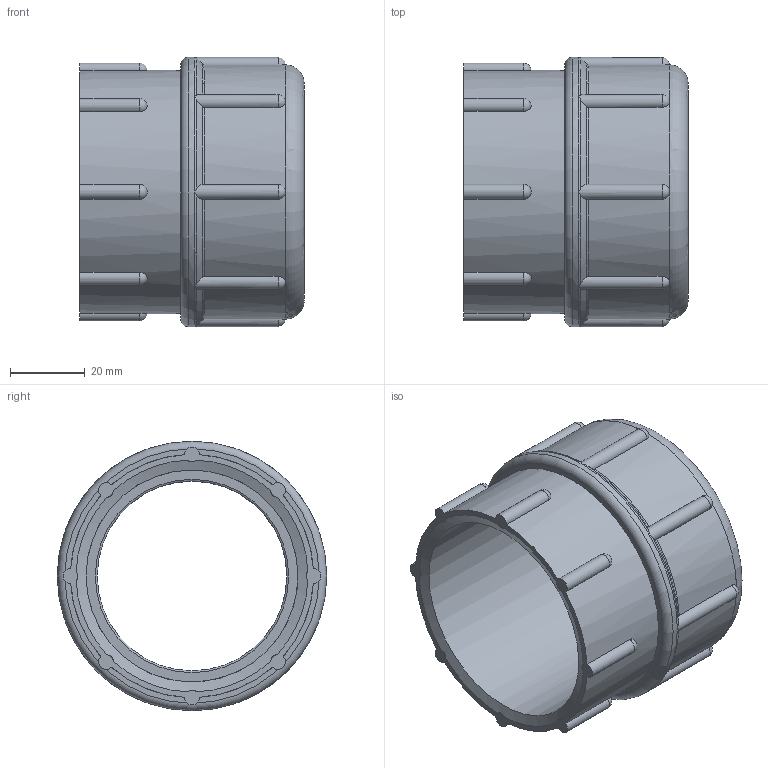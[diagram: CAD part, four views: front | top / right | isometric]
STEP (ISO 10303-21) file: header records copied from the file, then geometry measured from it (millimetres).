
FILE_DESCRIPTION( ( 'STEP AP214' ), '1' );
FILE_NAME( 'C:/Users/ilukic/Documents/ex/gebaudeentwasserung/pe/Geberit PE straight adapter with female thread and compression joint/359313.stp', '2020-03-26T18:42:12', ( '' ), ( '' ), ' ', 'PARTsolutions', ' ' );
FILE_SCHEMA( ( 'AUTOMOTIVE_DESIGN { 1 0 10303 214 1 1 1 1 }' ) );
Length unit declared in the file: millimetre
Products named in the file (1): _359313
Bounding box: 60 x 72 x 72 mm (x, y, z)
Volume: 61926.6 mm3; surface area: 27301.1 mm2
Topology: 1 solids, 1 shells, 89 faces, 251 edges, 151 vertices
Faces by surface type: cylinder 38, torus 20, sphere 16, cone 10, plane 5
Full cylindrical faces by diameter (mm): 50.7 x1, 56.656 x1, 58 x1, 58.19 x1, 65 x1, 72 x1
Entity records: 4110 total; most frequent: CARTESIAN_POINT 1350, ORIENTED_EDGE 428, DIRECTION 416, EDGE_CURVE 214, AXIS2_PLACEMENT_3D 192, VERTEX_POINT 142, EDGE_LOOP 106, CIRCLE 102
